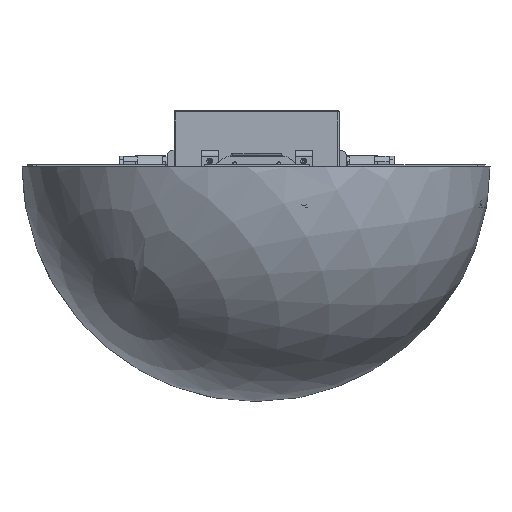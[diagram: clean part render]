
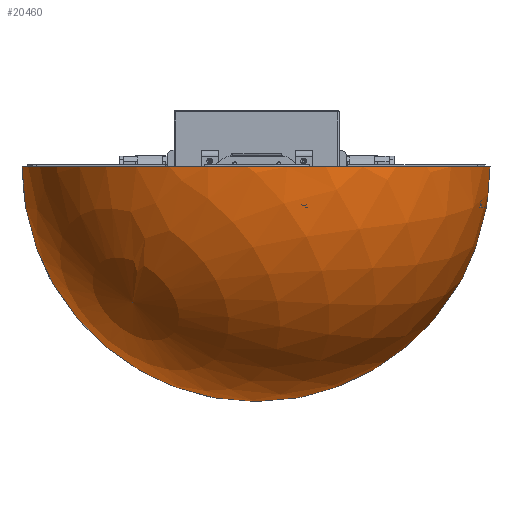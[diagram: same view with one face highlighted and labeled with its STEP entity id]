
A CAD part, left-side view. The second image highlights one B-rep face of the part: STEP entity #20460.
In plain terms, the highlighted spherical face has radius 165 mm.
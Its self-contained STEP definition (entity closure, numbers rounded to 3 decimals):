
#248=SPHERICAL_SURFACE('',#23113,165.);
#2803=FACE_OUTER_BOUND('',#4384,.T.);
#4384=EDGE_LOOP('',(#18710,#18711,#18712,#18713,#18714));
#8552=CIRCLE('',#23114,165.);
#8553=CIRCLE('',#23115,165.);
#8554=CIRCLE('',#23116,165.);
#8555=CIRCLE('',#23117,165.);
#10357=VERTEX_POINT('',#37212);
#10358=VERTEX_POINT('',#37213);
#10359=VERTEX_POINT('',#37215);
#10360=VERTEX_POINT('',#37217);
#13152=EDGE_CURVE('',#10357,#10358,#8552,.T.);
#13153=EDGE_CURVE('',#10359,#10358,#8553,.T.);
#13154=EDGE_CURVE('',#10360,#10359,#8554,.T.);
#13155=EDGE_CURVE('',#10357,#10359,#8555,.T.);
#18710=ORIENTED_EDGE('',*,*,#13152,.T.);
#18711=ORIENTED_EDGE('',*,*,#13153,.F.);
#18712=ORIENTED_EDGE('',*,*,#13154,.F.);
#18713=ORIENTED_EDGE('',*,*,#13154,.T.);
#18714=ORIENTED_EDGE('',*,*,#13155,.F.);
#20460=ADVANCED_FACE('',(#2803),#248,.T.);
#23113=AXIS2_PLACEMENT_3D('',#37211,#29448,#29449);
#23114=AXIS2_PLACEMENT_3D('',#37214,#29450,#29451);
#23115=AXIS2_PLACEMENT_3D('',#37216,#29452,#29453);
#23116=AXIS2_PLACEMENT_3D('',#37218,#29454,#29455);
#23117=AXIS2_PLACEMENT_3D('',#37219,#29456,#29457);
#29448=DIRECTION('center_axis',(0.577,0.577,0.577));
#29449=DIRECTION('ref_axis',(-0.707,0.,0.707));
#29450=DIRECTION('center_axis',(1.,0.,0.));
#29451=DIRECTION('ref_axis',(0.,1.,0.));
#29452=DIRECTION('center_axis',(0.,0.,-1.));
#29453=DIRECTION('ref_axis',(0.,1.,0.));
#29454=DIRECTION('center_axis',(-0.408,0.816,-0.408));
#29455=DIRECTION('ref_axis',(0.707,0.,-0.707));
#29456=DIRECTION('center_axis',(0.,0.,-1.));
#29457=DIRECTION('ref_axis',(0.,1.,0.));
#37211=CARTESIAN_POINT('Origin',(0.,0.,0.));
#37212=CARTESIAN_POINT('',(0.,165.,0.));
#37213=CARTESIAN_POINT('',(0.,-165.,0.));
#37214=CARTESIAN_POINT('Origin',(0.,0.,0.));
#37215=CARTESIAN_POINT('',(147.58,73.79,0.));
#37216=CARTESIAN_POINT('Origin',(0.,0.,
0.));
#37217=CARTESIAN_POINT('',(95.263,95.263,95.263));
#37218=CARTESIAN_POINT('Origin',(0.,0.,0.));
#37219=CARTESIAN_POINT('Origin',(0.,0.,
0.));
